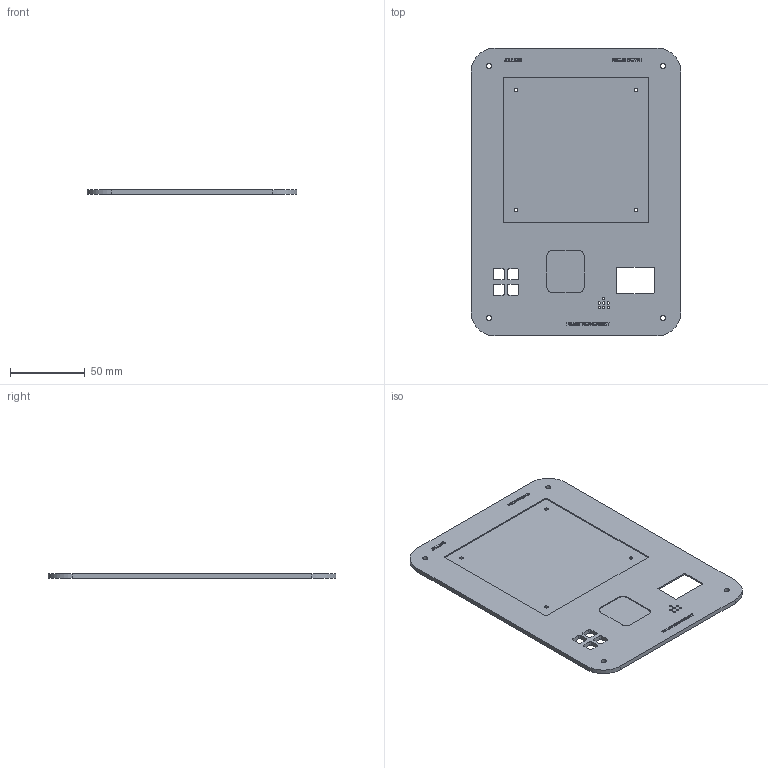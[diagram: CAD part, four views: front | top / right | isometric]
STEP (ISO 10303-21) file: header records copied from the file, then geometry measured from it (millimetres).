
FILE_DESCRIPTION(('Open CASCADE Model'),'2;1');
FILE_NAME('Open CASCADE Shape Model','2026-11-14T12:36:33',('Author'),( 'Open CASCADE'),'Open CASCADE STEP processor 7.9','Open CASCADE 7.9' ,'Unknown');
FILE_SCHEMA(('AUTOMOTIVE_DESIGN { 1 0 10303 214 1 1 1 1 }'));
Products named in the file (1): Open CASCADE STEP translator 7.9 8
Bounding box: 140 x 192 x 3 mm (x, y, z)
Volume: 68696.1 mm3; surface area: 55215.5 mm2
Topology: 1 solids, 1 shells, 713 faces, 1983 edges, 1322 vertices
Faces by surface type: plane 350, extrusion 312, cylinder 51
Full cylindrical faces by diameter (mm): 1.6 x7, 2.4 x4, 3.4 x4
Entity records: 52793 total; most frequent: CARTESIAN_POINT 16954, DIRECTION 4949, ORIENTED_EDGE 3966, PCURVE 3966, DEFINITIONAL_REPRESENTATION 3966, VECTOR 3879, LINE 3567, B_SPLINE_CURVE_WITH_KNOTS 2486
